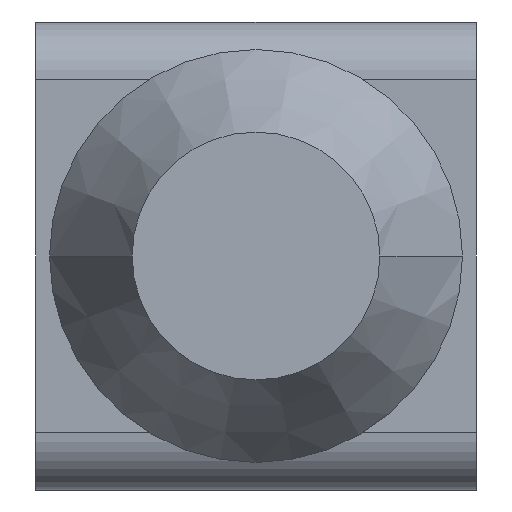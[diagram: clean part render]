
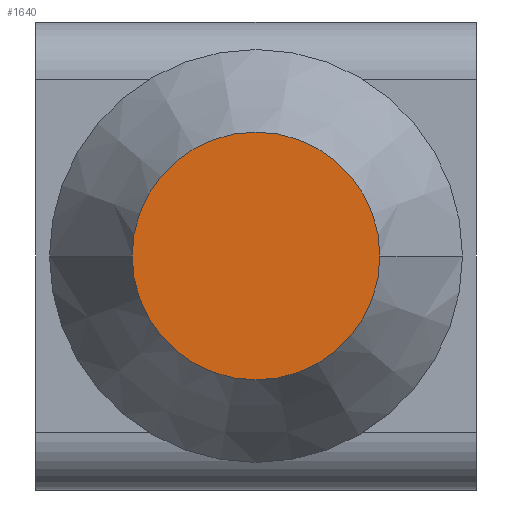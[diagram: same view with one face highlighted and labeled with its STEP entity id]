
A CAD part, front view. The second image highlights one B-rep face of the part: STEP entity #1640.
In plain terms, the highlighted planar face has unit normal (0, -1, 0).
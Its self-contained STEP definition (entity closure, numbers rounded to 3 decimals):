
#29 = DIRECTION ( 'NONE',  ( 0., -1., 0. ) ) ;
#48 = EDGE_LOOP ( 'NONE', ( #1359, #1946 ) ) ;
#125 = PLANE ( 'NONE',  #1561 ) ;
#170 = EDGE_CURVE ( 'NONE', #328, #392, #1371, .T. ) ;
#191 = FACE_OUTER_BOUND ( 'NONE', #48, .T. ) ;
#283 = CARTESIAN_POINT ( 'NONE',  ( 0., 0., 0. ) ) ;
#328 = VERTEX_POINT ( 'NONE', #457 ) ;
#344 = CIRCLE ( 'NONE', #2063, 4.5 ) ;
#392 = VERTEX_POINT ( 'NONE', #1243 ) ;
#457 = CARTESIAN_POINT ( 'NONE',  ( 4.5, 0., 0. ) ) ;
#752 = DIRECTION ( 'NONE',  ( 1., 0., 0. ) ) ;
#1016 = DIRECTION ( 'NONE',  ( -1., 0., 0. ) ) ;
#1201 = EDGE_CURVE ( 'NONE', #392, #328, #344, .T. ) ;
#1243 = CARTESIAN_POINT ( 'NONE',  ( -4.5, 0., 0. ) ) ;
#1359 = ORIENTED_EDGE ( 'NONE', *, *, #1201, .F. ) ;
#1371 = CIRCLE ( 'NONE', #1793, 4.5 ) ;
#1419 = DIRECTION ( 'NONE',  ( -1., 0., 0. ) ) ;
#1561 = AXIS2_PLACEMENT_3D ( 'NONE', #2404, #29, #752 ) ;
#1640 = ADVANCED_FACE ( 'NONE', ( #191 ), #125, .T. ) ;
#1793 = AXIS2_PLACEMENT_3D ( 'NONE', #2095, #1850, #1419 ) ;
#1850 = DIRECTION ( 'NONE',  ( 0., 1., 0. ) ) ;
#1946 = ORIENTED_EDGE ( 'NONE', *, *, #170, .F. ) ;
#2063 = AXIS2_PLACEMENT_3D ( 'NONE', #283, #2162, #1016 ) ;
#2095 = CARTESIAN_POINT ( 'NONE',  ( 0., 0., 0. ) ) ;
#2162 = DIRECTION ( 'NONE',  ( 0., 1., 0. ) ) ;
#2404 = CARTESIAN_POINT ( 'NONE',  ( -4.5, 0., 0. ) ) ;
